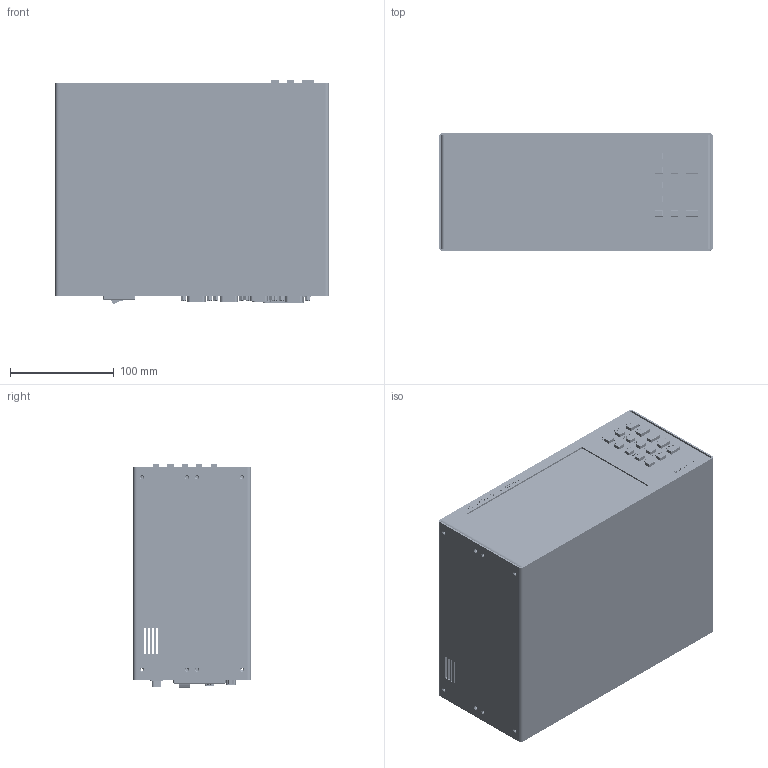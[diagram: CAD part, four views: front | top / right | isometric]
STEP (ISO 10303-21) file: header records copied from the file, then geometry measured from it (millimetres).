
FILE_DESCRIPTION(/* description */ ('','CAx-IF Rec.Pracs.---Representation and Presentation of Product Manufacturing Information (PMI)---4.0---2014-10-13'),/* implementation_level */ '2;1');
FILE_NAME(/* name */ 'C:\DESKTOP\홈페이지용 엔코더 3D 데이타 및 사진관련 자료\SCD-3000\SCD-3000.stp',/* time_stamp */ '2023-06-06T00:30:50+08:00',/* author */ ('hnckhn'),/* organization */ (''),/* preprocessor_version */ 'ST-DEVELOPER v18.1',/* originating_system */ 'Autodesk Inventor 2021',/* authorisation */ '');
FILE_SCHEMA (('AP242_MANAGED_MODEL_BASED_3D_ENGINEERING_MIM_LF { 1 0 10303 442 1 1 4 }'));
Products named in the file (657): SCD-2000; FRONT_PANEL; LT070C-33AT; REAR_PANEL; TOP_COVER; BOTTOM_COVER; SCD-2000_1; Board; Open CASCADE STEP translator 6.8 3.1.1; L21; C43; R117; R113; U2; TSOP2-44_IS61LV25616AL-10TLI; SW3dPS-TSOP2-44_IS_Open_CASCADE_STEP_translator_6.2_47.3; SW3dPS-TSOP2-44_IS_TSOP2-45; SW3dPS-TSOP2-44_IS_Free-Models4; SW3dPS-TSOP2-44_IS_352644689; SW3dPS-TSOP2-44_IS_Extruded25; SW3dPS-TSOP2-44_IS_352417473; SW3dPS-TSOP2-44_IS_Cylinder1; SW3dPS-TSOP2-44_IS_PINTSOP2-55; SW3dPS-TSOP2-44_IS_Free-Models5; SW3dPS-TSOP2-44_IS_352644049; SW3dPS-TSOP2-44_IS_Extruded18; SW3dPS-TSOP2-44_IS_Board3; SW3dPS-TSOP2-44_IS_Board5; SW3dPS-TSOP2-44_IS_Free-Models3; SW3dPS-TSOP2-44_IS_457826641; SW3dPS-TSOP2-44_IS_Extruded26; SW3dPS-TSOP2-44_IS_457822673; SW3dPS-TSOP2-44_IS_Extruded21; SW3dPS-TSOP2-44_IS_457822545; SW3dPS-TSOP2-44_IS_Extruded22; SW3dPS-TSOP2-44_IS_457827281; SW3dPS-TSOP2-44_IS_Extruded17; SW3dPS-TSOP2-44_IS_457825489; SW3dPS-TSOP2-44_IS_Extruded23; SW3dPS-TSOP2-44_IS_457821137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
Assembly tree (1264 placements, depth 11):
  SCD-2000
    FRONT_PANEL
    LT070C-33AT
    REAR_PANEL
    TOP_COVER
    BOTTOM_COVER
    SCD-2000_1
      Board
        Open CASCADE STEP translator 6.8 3.1.1
      L21
        User_Library-Chip_Cap_MLCC_1808_(4520)_K
      C43
        User_Library-CerCaps0603
      R117
        RES_1005-0402
      R113
        RES_1005-0402
      U2
        TSOP2-44_IS61LV25616AL-10TLI
          SW3dPS-TSOP2-44_IS_Open_CASCADE_STEP_translator_6.2_47.3
            SW3dPS-TSOP2-44_IS_TSOP2-45
              SW3dPS-TSOP2-44_IS_Free-Models4
                SW3dPS-TSOP2-44_IS_PINTSOP2-55  x44
                  SW3dPS-TSOP2-44_IS_Free-Models5
                  SW3dPS-TSOP2-44_IS_Board3
                SW3dPS-TSOP2-44_IS_352644689
                  SW3dPS-TSOP2-44_IS_Extruded25
                SW3dPS-TSOP2-44_IS_352417473
                  SW3dPS-TSOP2-44_IS_Cylinder1
              SW3dPS-TSOP2-44_IS_Board5
          SW3dPS-TSOP2-44_IS_Free-Models3
            SW3dPS-TSOP2-44_IS_457822673  x3
              SW3dPS-TSOP2-44_IS_Extruded21
            SW3dPS-TSOP2-44_IS_457817553  x3
              SW3dPS-TSOP2-44_IS_Extruded27
            SW3dPS-TSOP2-44_IS_457826641
              SW3dPS-TSOP2-44_IS_Extruded26
            SW3dPS-TSOP2-44_IS_457821137  x2
              SW3dPS-TSOP2-44_IS_Extruded29
            SW3dPS-TSOP2-44_IS_457822545
              SW3dPS-TSOP2-44_IS_Extruded22
            SW3dPS-TSOP2-44_IS_457827281
              SW3dPS-TSOP2-44_IS_Extruded17
            SW3dPS-TSOP2-44_IS_457825489
              SW3dPS-TSOP2-44_IS_Extruded23
            SW3dPS-TSOP2-44_IS_457820625  x2
              SW3dPS-TSOP2-44_IS_Extruded16
            SW3dPS-TSOP2-44_IS_457823057  x3
              SW3dPS-TSOP2-44_IS_Extruded19
            SW3dPS-TSOP2-44_IS_457820497  x2
              SW3dPS-TSOP2-44_IS_Extruded30
            SW3dPS-TSOP2-44_IS_457825745
              SW3dPS-TSOP2-44_IS_Extruded28
            SW3dPS-TSOP2-44_IS_457824977
              SW3dPS-TSOP2-44_IS_Extruded24
            SW3dPS-TSOP2-44_IS_457817425
              SW3dPS-TSOP2-44_IS_Extruded31
            SW3dPS-TSOP2-44_IS_457826385
              SW3dPS-TSOP2-44_IS_Extruded20
          SW3dPS-TSOP2-44_IS_Board4
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Bounding box: 263.2 x 113 x 215.5 mm (x, y, z)
Volume: 656778.2 mm3; surface area: 783828.1 mm2
Topology: 1610 solids, 1682 shells, 50085 faces, 127543 edges, 82607 vertices
Faces by surface type: plane 32479, cylinder 8099, bspline 6666, sphere 2104, torus 409, cone 328
Full cylindrical faces by diameter (mm): 0.35 x6, 0.4 x2, 0.45 x14, 0.5 x6, 0.506 x2, 0.61 x60, 0.65 x25, 0.7 x10, 0.711 x1, 0.762 x4, 0.787 x6, 0.889 x174, 0.9 x143, 0.914 x19, 0.991 x133, 1 x247, 1.02 x20, 1.09 x45, 1.092 x4, 1.225 x1, 1.27 x2, 1.5 x45, 1.65 x25, 1.778 x15, 1.8 x4, 1.803 x30, 1.905 x1, 2 x3, 2.156 x10, 2.2 x1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
Entity records: 600697 total; most frequent: CARTESIAN_POINT 135299, ORIENTED_EDGE 89858, DIRECTION 89820, EDGE_CURVE 44929, LINE 33152, VECTOR 33152, VERTEX_POINT 29999, AXIS2_PLACEMENT_3D 28334
